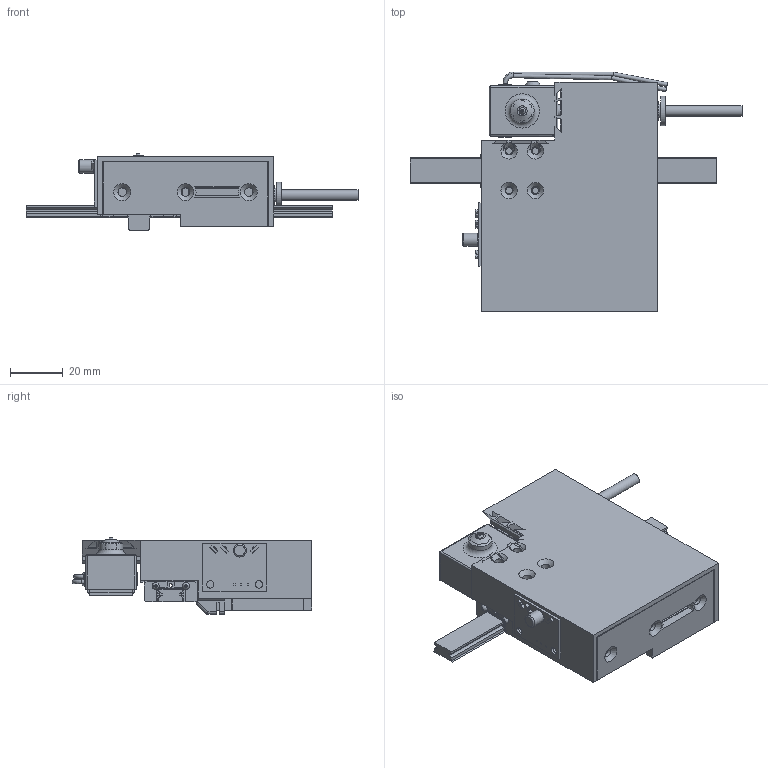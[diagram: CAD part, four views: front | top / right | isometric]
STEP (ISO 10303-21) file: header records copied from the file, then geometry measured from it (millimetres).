
FILE_DESCRIPTION(/* description */ (''),/* implementation_level */ '2;1');
FILE_NAME(/* name */ 'Toolhead_3x3010 v16.step',/* time_stamp */ '2023-03-16T18:22:09-03:00',/* author */ (''),/* organization */ (''),/* preprocessor_version */ 'ST-DEVELOPER v19.2',/* originating_system */ 'Autodesk Translation Framework v11.17.0.187',/* authorisation */ '');
FILE_SCHEMA (('AUTOMOTIVE_DESIGN { 1 0 10303 214 3 1 1 }'));
Products named in the file (30): Toolhead_3x3010; MGN9-C v2 v1; Komponente20; Komponente11; Komponente12; Komponente13; Komponente14; Komponente15; Komponente16; Komponente17; Komponente18; Komponente19; Positron V3 Hotend v1; ender 3 heatbreak v1; E3D V6 Nozzle (0.4mm) v1; mk8 radiator v1; M3x3.0 v1; Heater Cartrige; Hotend Heater block; M3x4 buttonhead v1; ISO 7380-1 M3x16mm; M3 Washer v1; Thermistor; Hotend block main body; Hotend Brass Insert; PTFE 4mm Fitting v1; Silicone Sock; Capricorn PTFE Tube; Mini IR sensor v1; 30mm Fan Mockup 3010 v5 v1
Assembly tree (31 placements, depth 5):
  Toolhead_3x3010
    MGN9-C v2 v1
      Komponente20
        Komponente11
        Komponente12
        Komponente13
        Komponente14
        Komponente15
        Komponente16
        Komponente17
        Komponente18
        Komponente19
    Positron V3 Hotend v1
      ender 3 heatbreak v1
      E3D V6 Nozzle (0.4mm) v1
      mk8 radiator v1
        M3x3.0 v1
      Heater Cartrige
      Hotend Heater block
        M3x4 buttonhead v1
          ISO 7380-1 M3x16mm
        M3 Washer v1
        Thermistor
        Hotend block main body
      Hotend Brass Insert
      PTFE 4mm Fitting v1
      Silicone Sock
      Capricorn PTFE Tube
    30mm Fan Mockup 3010 v5 v1  x3
    Mini IR sensor v1
Bounding box: 125.85 x 90.9 x 29.09 mm (x, y, z)
Volume: 83031.4 mm3; surface area: 79576.9 mm2
Topology: 40 solids, 52 shells, 1801 faces, 4965 edges, 3299 vertices
Faces by surface type: plane 879, cylinder 774, bspline 92, cone 31, sphere 16, torus 9
Full cylindrical faces by diameter (mm): 0.4 x1, 1.288 x5, 1.5 x7, 1.509 x12, 1.9 x1, 2 x3, 2.05 x16, 2.356 x12, 2.4 x7, 2.5 x4, 2.529 x35, 2.603 x4, 2.8 x2, 2.927 x12, 3.086 x35, 3.175 x1, 3.2 x10, 4 x3, 4.3 x9, 4.744 x5, 4.9 x1, 5 x2, 5.035 x5, 5.5 x1, 5.7 x1, 5.884 x5, 5.917 x5, 6 x4, 6.147 x5, 7 x8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
Entity records: 114650 total; most frequent: CARTESIAN_POINT 78661, ORIENTED_EDGE 7756, DIRECTION 6713, EDGE_CURVE 3878, VERTEX_POINT 2577, AXIS2_PLACEMENT_3D 2299, LINE 2115, VECTOR 2115
